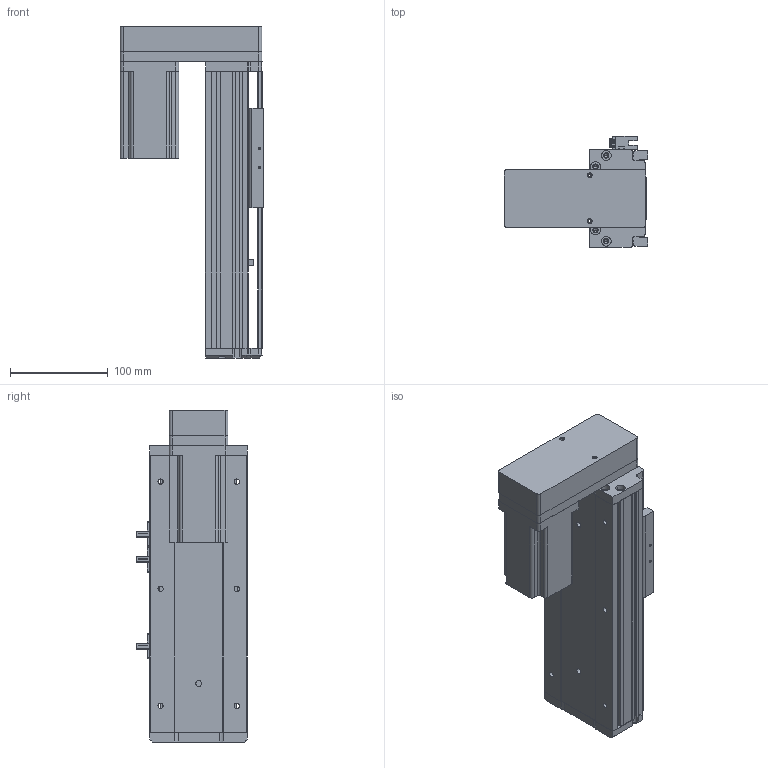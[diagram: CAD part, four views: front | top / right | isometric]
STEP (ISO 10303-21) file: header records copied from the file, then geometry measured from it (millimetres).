
FILE_DESCRIPTION (( 'STEP AP214' ), '1' );
FILE_NAME ('KSD100S-S100-MD-CM.STEP', '2019-08-30T01:40:30', ( '微软用户' ), ( '微软中国' ), 'SwSTEP 2.0', 'SolidWorks 2014', '' );
FILE_SCHEMA (( 'AUTOMOTIVE_DESIGN' ));
Length unit declared in the file: millimetre
Products named in the file (11): 悵誘欶奻狟殏; 100宽马达安装板连板上下折丝杆同步带; HTPA30S3M150_A_H6_a佪裝蚚; 侂狟400侜督萇儂; U倰嫖萇EEㄜSX672; 100宽防尘板丝杆100行程; 100遵鎮湛假蚾啣; 100宽滚珠螺姆安装板半封闭; 100遵傷啣; 100宽底板半封闭丝杆100行程; KSD100S-S100-MD-CM
Assembly tree (12 placements, depth 2):
  KSD100S-S100-MD-CM
    100宽底板半封闭丝杆100行程
    100遵傷啣
    100宽滚珠螺姆安装板半封闭
    100遵鎮湛假蚾啣
    100宽防尘板丝杆100行程
    U倰嫖萇EEㄜSX672  x3
    侂狟400侜督萇儂
    HTPA30S3M150_A_H6_a佪裝蚚
    100宽马达安装板连板上下折丝杆同步带
    悵誘欶奻狟殏
Bounding box: 147 x 113.7 x 340.5 mm (x, y, z)
Volume: 1168846.6 mm3; surface area: 357797.5 mm2
Topology: 13 solids, 13 shells, 1394 faces, 3940 edges, 2543 vertices
Faces by surface type: cylinder 800, plane 483, cone 111
Entity records: 48227 total; most frequent: CARTESIAN_POINT 8268, DIRECTION 7063, ORIENTED_EDGE 6588, EDGE_CURVE 3294, AXIS2_PLACEMENT_3D 2680, VERTEX_POINT 2167, VECTOR 1703, LINE 1703
